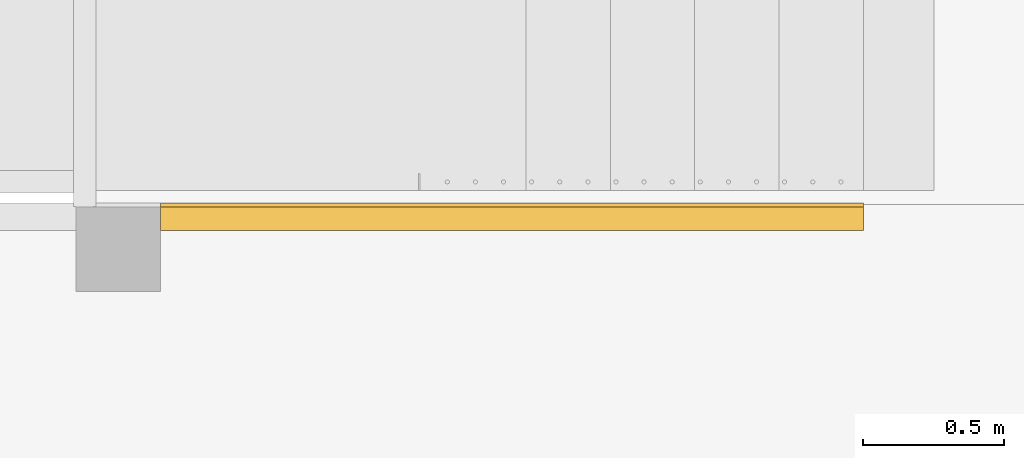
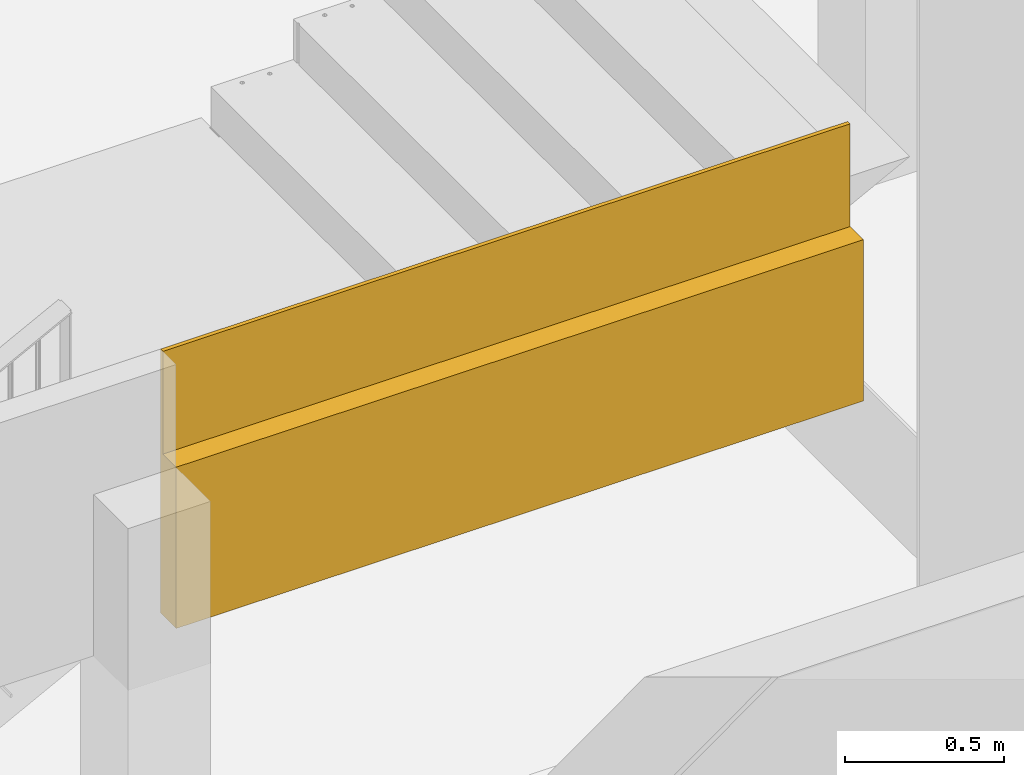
# One storey, part 58 of 79: 1 covering.
"""IFC2X3 building model written with IfcOpenShell, lengths in millimetres."""

from ifc_helpers import new_model, entity, si_unit, converted_unit, derived_unit, money_unit, direction, frame, origin_with_axes, place, context, subcontext, project, spatial, faceted_brep, material, material_list, type_object, element, save


model = new_model("IFC2X3")

# Units and contexts
model_context = context("Model", 3, precision=0.01, world=origin_with_axes(), true_north=direction((0.0, 1.0)))
body_context = subcontext(model_context, "Body", "Model", "MODEL_VIEW")
ifc_project = project(units=[si_unit("LENGTHUNIT", "METRE", prefix="MILLI"), si_unit("AREAUNIT", "SQUARE_METRE"), si_unit("VOLUMEUNIT", "CUBIC_METRE"), converted_unit("PLANEANGLEUNIT", "DEGREE", entity("IfcPlaneAngleMeasure", 0.0174532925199), si_unit("PLANEANGLEUNIT", "RADIAN"), dimensions=[0, 0, 0, 0, 0, 0, 0]), si_unit("SOLIDANGLEUNIT", "STERADIAN"), money_unit("EUR"), converted_unit("TIMEUNIT", "Year", entity("IfcTimeMeasure", 31556926.0), si_unit("TIMEUNIT", "SECOND"), dimensions=[0, 0, 1, 0, 0, 0, 0]), si_unit("MASSUNIT", "GRAM", prefix="KILO"), si_unit("THERMODYNAMICTEMPERATUREUNIT", "DEGREE_CELSIUS"), si_unit("LUMINOUSINTENSITYUNIT", "LUMEN"), si_unit("ENERGYUNIT", "JOULE", prefix="MEGA"), derived_unit("THERMALCONDUCTANCEUNIT", [(si_unit("POWERUNIT", "WATT"), 1), (si_unit("LENGTHUNIT", "METRE"), -1), (si_unit("THERMODYNAMICTEMPERATUREUNIT", "KELVIN"), -1)]), derived_unit("SPECIFICHEATCAPACITYUNIT", [(si_unit("ENERGYUNIT", "JOULE"), 1), (si_unit("MASSUNIT", "GRAM", prefix="KILO"), -1), (si_unit("THERMODYNAMICTEMPERATUREUNIT", "KELVIN"), -1)]), derived_unit("MASSDENSITYUNIT", [(si_unit("MASSUNIT", "GRAM", prefix="KILO"), 1), (si_unit("VOLUMEUNIT", "CUBIC_METRE"), -1)])], contexts=[model_context])

# Site, building, storey
site_placement = place(None, origin_with_axes())
site = spatial("IfcSite", under=ifc_project, at=site_placement, Name="L.Koidula tn 11b", CompositionType="ELEMENT")
building_placement = place(site_placement, origin_with_axes())
building = spatial("IfcBuilding", under=site, at=building_placement, Name="Rakvere Riigigümnaasium", CompositionType="ELEMENT")
storey_placement = place(building_placement, frame((0.0, 0.0, 3720.0), z_axis=(0.0, 0.0, 1.0), x_axis=(1.0, 0.0, 0.0)))
storey = spatial("IfcBuildingStorey", under=building, at=storey_placement, Name="2.korrus +3,72", CompositionType="ELEMENT", Elevation=3720.0)

# Covering
ifc_material_1 = material(Name="Karkass")
ifc_material_2 = material(Name="Kipsplaat")
ifc_material_3 = material(Name="Alumiiniumprofiil")
ifc_material_4 = material(Name="Keraamiline plaat valge")
ifc_material_list = material_list([ifc_material_1, ifc_material_2, ifc_material_3, ifc_material_3, ifc_material_4])
covering_type = type_object("IfcCoveringType", Name="SA-Pinnakate-Ker 99", PredefinedType="CEILING")
covering_placement = place(storey_placement, frame((73799.9974492, 15100.4777458, 2704.5), z_axis=(0.0, 0.0, 1.0), x_axis=(-1.0, 0.0, 0.0)))
element("IfcCovering", 1, at=covering_placement, inside=storey, type_object=covering_type, material=ifc_material_list, Name="Pinnakate-keraamiline", PredefinedType="CEILING", context=body_context, shape_type="Brep", body=[
    faceted_brep([(0.0, 17.5, 620.5), (0.0, 17.5, 0.0), (2499.9993763, 17.5, 0.0), (2499.9993763, 17.5, 620.5), (0.0, 83.5, 620.5), (0.0, 83.5, 0.0), (2499.9993763, 83.5, 0.0), (2499.9993763, 83.5, 620.5)], [[[0, 1, 2, 3]], [[4, 5, 1, 0]], [[6, 2, 1, 5]], [[3, 2, 6, 7]], [[0, 3, 7, 4]], [[7, 6, 5, 4]]]),
    faceted_brep([(0.0, 5.0, 620.5), (0.0, 5.0, 0.0), (2499.9993763, 5.0, 0.0), (2499.9993763, 5.0, 620.5), (0.0, 17.5, 620.5), (0.0, 17.5, 0.0), (2499.9993763, 17.5, 0.0), (2499.9993763, 17.5, 620.5)], [[[0, 1, 2, 3]], [[4, 5, 1, 0]], [[6, 2, 1, 5]], [[3, 2, 6, 7]], [[0, 3, 7, 4]], [[7, 6, 5, 4]]]),
    faceted_brep([(-1.27897692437e-09, -0.000600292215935, 620.5), (0.0, 0.0, 0.0), (2499.9993763, 0.0, 0.0), (2499.9993763, -0.000622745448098, 620.5), (0.0, 5.0, 620.5), (0.0, 5.0, 0.0), (2499.9993763, 5.0, 0.0), (2499.9993763, 5.0, 620.5)], [[[0, 1, 2, 3]], [[4, 5, 1, 0]], [[5, 6, 2, 1]], [[3, 2, 6, 7]], [[0, 3, 7, 4]], [[7, 6, 5, 4]]]),
    faceted_brep([(0.0, 0.0, 0.0), (2499.9993763, 0.0, 0.0), (2499.9993763, -10.0, 0.0), (0.0, -10.0, 0.0), (0.0, 0.0, 1015.5), (2499.9993763, 0.0, 1015.5), (2499.9993763, -10.0, 1015.5), (0.0, -10.0, 1015.5)], [[[0, 1, 2, 3]], [[4, 5, 1, 0]], [[2, 1, 5, 6]], [[3, 2, 6, 7]], [[4, 0, 3, 7]], [[7, 6, 5, 4]]]),
    faceted_brep([(2499.9993763, -15.0, 0.0), (0.0, -15.0, 0.0), (0.0, -10.0, 0.0), (2499.9993763, -10.0, 0.0), (2499.9993763, -15.0, 1015.5), (0.0, -15.0, 1015.5), (0.0, -10.0, 1015.5), (2499.9993763, -10.0, 1015.5)], [[[0, 1, 2, 3]], [[4, 5, 1, 0]], [[1, 5, 6, 2]], [[3, 2, 6, 7]], [[7, 4, 0, 3]], [[7, 6, 5, 4]]]),
])

save(model, "model.ifc")
